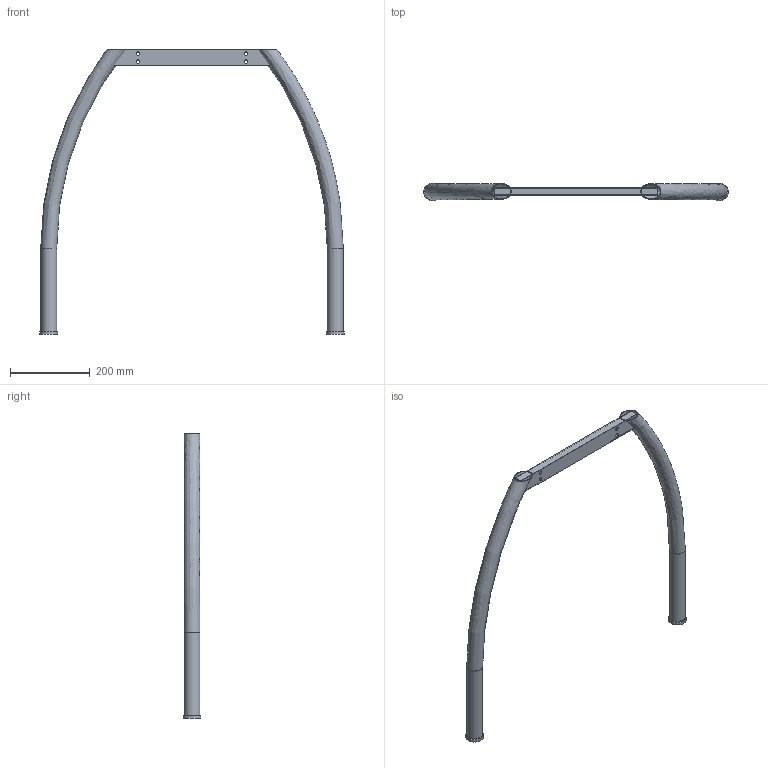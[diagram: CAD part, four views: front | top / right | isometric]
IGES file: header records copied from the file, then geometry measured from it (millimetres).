
Start section: Data from Parasolid IGES Translator 20.0.26, Copyright(c) 2006 Siemens P LM Software. All Rights Reserved.
Global section: file name: 45988.igs; native system: By Siemens PLM Incorporated; preprocessor: XPlus GENERIC/IGES 20.0.26; author: Noname; organization: Noname; date: 20210125.172415; units: millimetre
Bounding box: 761.5 x 44.5 x 712.5 mm (x, y, z)
Surface area: 459534.5 mm2 (no closed solid volume)
Topology: 0 solids, 0 shells, 36 faces, 152 edges, 126 vertices
Faces by surface type: revolution 18, extrusion 18
